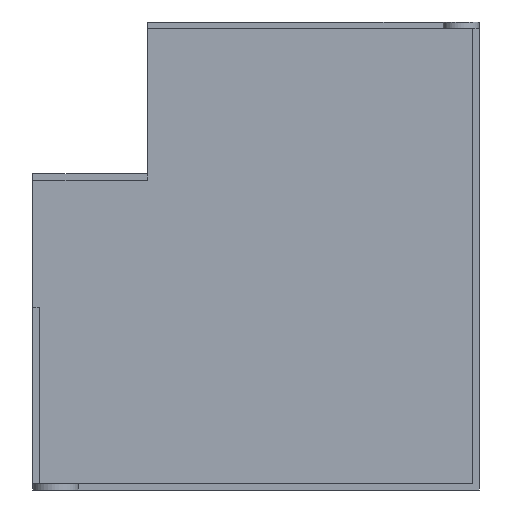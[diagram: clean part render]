
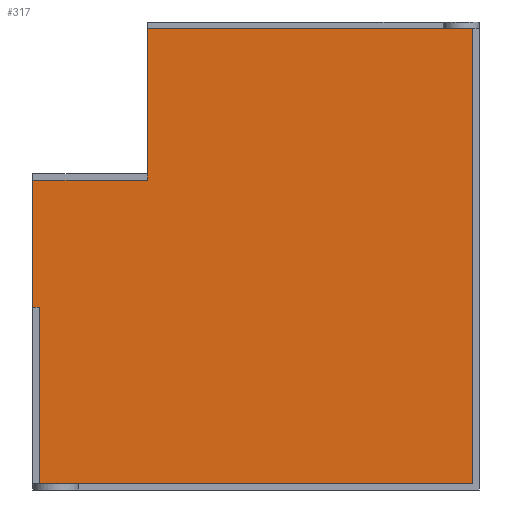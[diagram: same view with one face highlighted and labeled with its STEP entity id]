
A CAD part, front view. The second image highlights one B-rep face of the part: STEP entity #317.
In plain terms, the highlighted planar face has unit normal (0, -1, 0).
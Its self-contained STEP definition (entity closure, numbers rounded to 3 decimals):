
#2=DIRECTION('',(-1.,0.,0.));
#3=VECTOR('',#2,10.24);
#4=CARTESIAN_POINT('',(13.85,0.,-0.2));
#5=LINE('',#4,#3);
#6=DIRECTION('',(0.,0.,1.));
#7=VECTOR('',#6,14.33);
#8=CARTESIAN_POINT('',(13.85,0.,-14.53));
#9=LINE('',#8,#7);
#10=DIRECTION('',(1.,0.,0.));
#11=VECTOR('',#10,13.65);
#12=CARTESIAN_POINT('',(0.2,0.,-14.53));
#13=LINE('',#12,#11);
#14=DIRECTION('',(0.,0.,-1.));
#15=VECTOR('',#14,5.55);
#16=CARTESIAN_POINT('',(0.2,0.,-8.98));
#17=LINE('',#16,#15);
#18=DIRECTION('',(1.,0.,0.));
#19=VECTOR('',#18,0.2);
#20=CARTESIAN_POINT('',(0.,0.,-8.98));
#21=LINE('',#20,#19);
#22=DIRECTION('',(-1.,0.,0.));
#23=VECTOR('',#22,3.61);
#24=CARTESIAN_POINT('',(3.61,0.,-4.98));
#25=LINE('',#24,#23);
#26=DIRECTION('',(0.,0.,-1.));
#27=VECTOR('',#26,4.58);
#28=CARTESIAN_POINT('',(3.61,0.,-0.2));
#29=LINE('',#28,#27);
#67=DIRECTION('',(0.,0.,1.));
#68=VECTOR('',#67,4.);
#69=CARTESIAN_POINT('',(0.,0.,-8.98));
#70=LINE('',#69,#68);
#206=DIRECTION('',(0.,0.,1.));
#207=VECTOR('',#206,0.2);
#208=CARTESIAN_POINT('',(3.61,0.,-4.98));
#209=LINE('',#208,#207);
#234=CARTESIAN_POINT('',(3.61,0.,-0.2));
#235=CARTESIAN_POINT('',(3.61,0.,-4.78));
#236=VERTEX_POINT('',#234);
#237=VERTEX_POINT('',#235);
#244=CARTESIAN_POINT('',(3.61,0.,-4.98));
#246=VERTEX_POINT('',#244);
#252=CARTESIAN_POINT('',(0.2,0.,-8.98));
#253=VERTEX_POINT('',#252);
#254=CARTESIAN_POINT('',(0.2,0.,-14.53));
#255=VERTEX_POINT('',#254);
#256=CARTESIAN_POINT('',(13.85,0.,-14.53));
#257=CARTESIAN_POINT('',(13.85,0.,-0.2));
#258=VERTEX_POINT('',#256);
#259=VERTEX_POINT('',#257);
#260=CARTESIAN_POINT('',(0.,0.,-8.98));
#261=VERTEX_POINT('',#260);
#262=CARTESIAN_POINT('',(0.,0.,-4.98));
#263=VERTEX_POINT('',#262);
#292=CARTESIAN_POINT('',(14.05,0.,0.));
#293=DIRECTION('',(0.,-1.,0.));
#294=DIRECTION('',(0.,0.,-1.));
#295=AXIS2_PLACEMENT_3D('',#292,#293,#294);
#296=PLANE('',#295);
#298=ORIENTED_EDGE('',*,*,#297,.F.);
#300=ORIENTED_EDGE('',*,*,#299,.F.);
#302=ORIENTED_EDGE('',*,*,#301,.F.);
#304=ORIENTED_EDGE('',*,*,#303,.F.);
#306=ORIENTED_EDGE('',*,*,#305,.F.);
#308=ORIENTED_EDGE('',*,*,#307,.T.);
#310=ORIENTED_EDGE('',*,*,#309,.F.);
#312=ORIENTED_EDGE('',*,*,#311,.T.);
#314=ORIENTED_EDGE('',*,*,#313,.F.);
#315=EDGE_LOOP('',(#298,#300,#302,#304,#306,#308,#310,#312,#314));
#316=FACE_OUTER_BOUND('',#315,.F.);
#317=ADVANCED_FACE('',(#316),#296,.T.);
#297=EDGE_CURVE('',#259,#236,#5,.T.);
#299=EDGE_CURVE('',#258,#259,#9,.T.);
#301=EDGE_CURVE('',#255,#258,#13,.T.);
#303=EDGE_CURVE('',#253,#255,#17,.T.);
#305=EDGE_CURVE('',#261,#253,#21,.T.);
#307=EDGE_CURVE('',#261,#263,#70,.T.);
#309=EDGE_CURVE('',#246,#263,#25,.T.);
#311=EDGE_CURVE('',#246,#237,#209,.T.);
#313=EDGE_CURVE('',#236,#237,#29,.T.);
